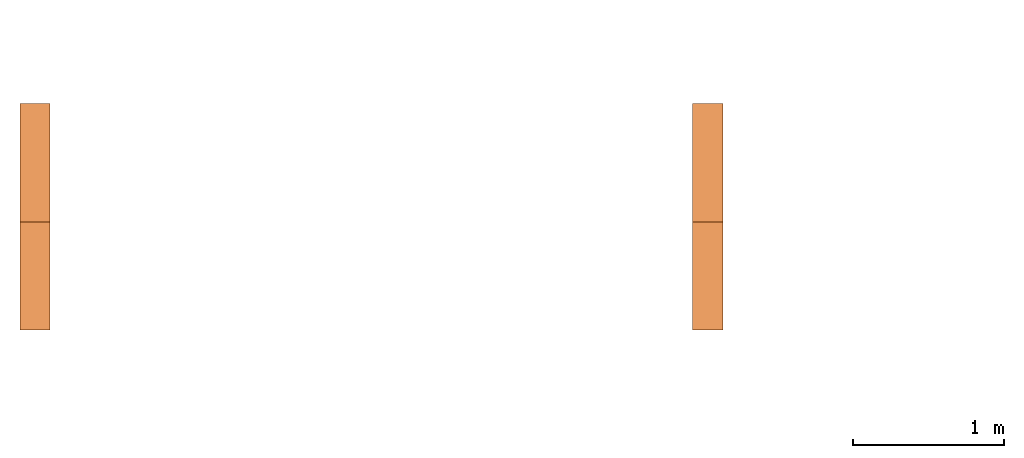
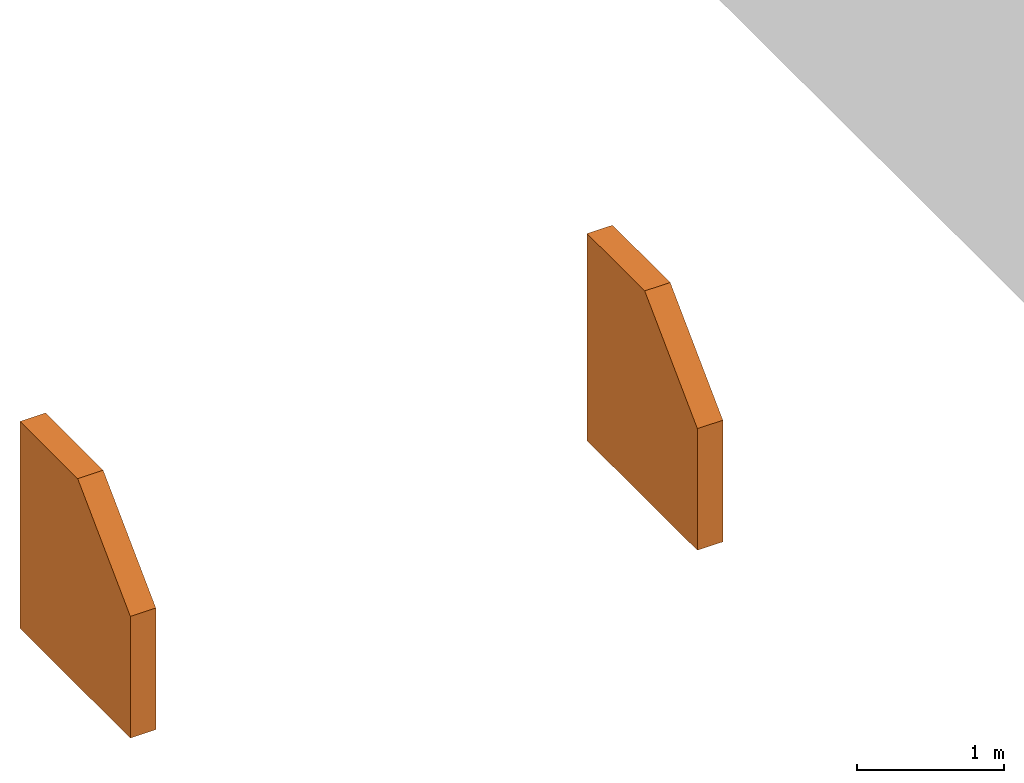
# One storey, part 25 of 25: 2 proxies.
"""IFC2X3 building model written with IfcOpenShell, lengths in millimetres."""

from ifc_helpers import new_model, entity, si_unit, converted_unit, derived_unit, money_unit, direction, frame, origin_with_axes, place, context, subcontext, project, spatial, faceted_brep, source, transform, mapped, material, type_object, element, save


model = new_model("IFC2X3")

# Units and contexts
model_context = context("Model", 3, precision=0.01, world=origin_with_axes(), true_north=direction((0.0, 1.0)))
body_context = subcontext(model_context, "Body", "Model", "MODEL_VIEW")
ifc_project = project(units=[si_unit("LENGTHUNIT", "METRE", prefix="MILLI"), si_unit("AREAUNIT", "SQUARE_METRE"), si_unit("VOLUMEUNIT", "CUBIC_METRE"), converted_unit("PLANEANGLEUNIT", "DEGREE", entity("IfcPlaneAngleMeasure", 0.0174532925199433), si_unit("PLANEANGLEUNIT", "RADIAN"), dimensions=[0, 0, 0, 0, 0, 0, 0]), money_unit("USD"), converted_unit("TIMEUNIT", "Year", entity("IfcTimeMeasure", 31557600.0), si_unit("TIMEUNIT", "SECOND"), dimensions=[0, 0, 1, 0, 0, 0, 0]), si_unit("MASSUNIT", "GRAM", prefix="KILO"), si_unit("THERMODYNAMICTEMPERATUREUNIT", "DEGREE_CELSIUS"), si_unit("LUMINOUSINTENSITYUNIT", "LUMEN"), si_unit("ENERGYUNIT", "JOULE", prefix="MEGA"), derived_unit("THERMALCONDUCTANCEUNIT", [(si_unit("POWERUNIT", "WATT"), 1), (si_unit("LENGTHUNIT", "METRE"), -1), (si_unit("THERMODYNAMICTEMPERATUREUNIT", "KELVIN"), -1)]), derived_unit("SPECIFICHEATCAPACITYUNIT", [(si_unit("ENERGYUNIT", "JOULE"), 1), (si_unit("MASSUNIT", "GRAM", prefix="KILO"), -1), (si_unit("THERMODYNAMICTEMPERATUREUNIT", "KELVIN"), -1)]), derived_unit("MASSDENSITYUNIT", [(si_unit("MASSUNIT", "GRAM", prefix="KILO"), 1), (si_unit("VOLUMEUNIT", "CUBIC_METRE"), -1)])], contexts=[model_context])

# Site, building, storey
site_placement = place(None, origin_with_axes())
site = spatial("IfcSite", under=ifc_project, at=site_placement, Name="Site", CompositionType="ELEMENT")
building_placement = place(site_placement, origin_with_axes())
building = spatial("IfcBuilding", under=site, at=building_placement, Name="Building", CompositionType="ELEMENT")
storey_placement = place(building_placement, origin_with_axes())
storey = spatial("IfcBuildingStorey", under=building, at=storey_placement, Name="U ETG", CompositionType="ELEMENT", Elevation=0.0)

# Proxies
ifc_material = material(Name="GENERIC - PREFABRICATED")
building_element_proxy_type = type_object("IfcBuildingElementProxyType", Name="GENERIC - PREFABRICATED", PredefinedType="NOTDEFINED")
shared_shape = source(origin_with_axes(), body_context, "Body", "Brep", [
    faceted_brep([(0.0, -1500.0, -502.8886949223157), (0.0, -1500.0, 506.4373519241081), (0.0, -784.1078358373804, 1215.317008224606), (0.0, 0.0, 1215.317008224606), (0.0, 0.0, -502.8886949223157), (200.0000000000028, -1500.0, -502.8886949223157), (200.0000000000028, -1500.0, 0.0), (200.0000000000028, -1500.0, 506.4373519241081), (200.0000000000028, -784.1078358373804, 1215.317008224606), (200.0000000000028, 0.0, 1215.317008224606), (200.0000000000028, 0.0, -502.8886949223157)], [[[0, 1, 2, 3, 4]], [[1, 0, 5, 6, 7]], [[2, 1, 8]], [[3, 2, 8, 9]], [[4, 3, 9, 10]], [[4, 10, 5, 0]], [[8, 6, 5, 10, 9]], [[6, 8, 7]], [[1, 7, 8]]]),
])
for number, where, z_axis, x_axis, name in (
    (1, (-99.99843572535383, 7099.445905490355, 2084.682991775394), (0.0, 0.0, 1.0), (1.0, 0.0, 0.0), "MORPH-001"),
    (2, (4350.000212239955, 7099.445905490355, 2084.682991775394), (0.0, 0.0, 1.0), (1.0, 0.0, 0.0), "MORPH-001"),
):
    element("IfcBuildingElementProxy", number, at=place(storey_placement, frame(where, z_axis=z_axis, x_axis=x_axis)), inside=storey, type_object=building_element_proxy_type, material=ifc_material, Name=name, context=body_context, shape_type="MappedRepresentation", body=[
        mapped(shared_shape, transform((0.0, 0.0, 0.0))),
    ])

save(model, "model.ifc")
